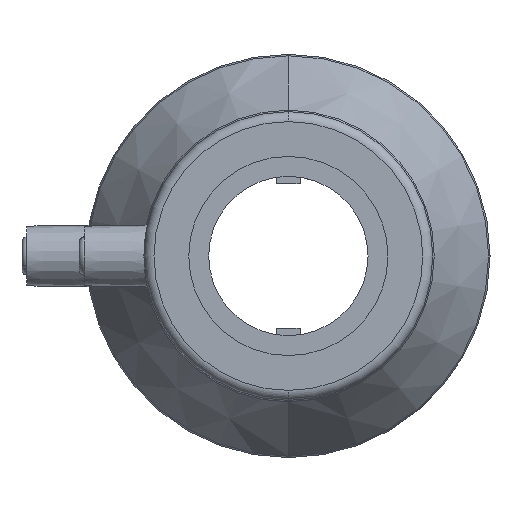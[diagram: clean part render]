
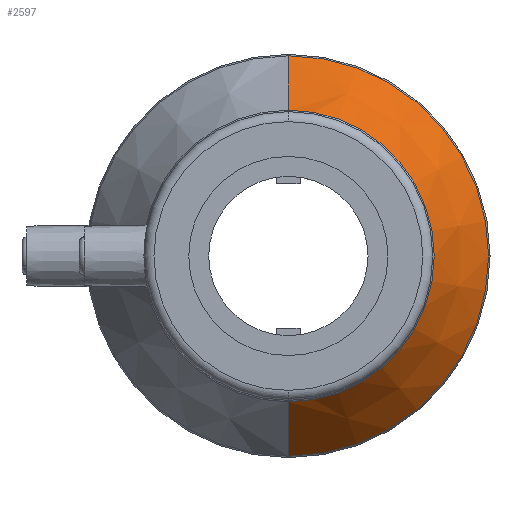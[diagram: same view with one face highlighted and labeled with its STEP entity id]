
A CAD part, left-side view. The second image highlights one B-rep face of the part: STEP entity #2597.
In plain terms, the highlighted conical face has half-angle 31.185 degrees and reference radius 40.211 mm.
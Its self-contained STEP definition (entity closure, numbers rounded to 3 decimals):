
#20 = CARTESIAN_POINT ( 'NONE',  ( -26.489, -16., 0. ) ) ;
#21 = DIRECTION ( 'NONE',  ( 1., 0., 0. ) ) ;
#22 = DIRECTION ( 'NONE',  ( 0., 0., -1. ) ) ;
#712 = VECTOR ( 'NONE', #4042, 1000. ) ;
#721 = VECTOR ( 'NONE', #4046, 1000. ) ;
#730 = CIRCLE ( 'NONE', #733, 29.289 ) ;
#733 = AXIS2_PLACEMENT_3D ( 'NONE', #4063, #4064, #4065 ) ;
#1080 = EDGE_CURVE ( 'NONE', #5578, #5579, #3905, .T. ) ;
#2597 = ADVANCED_FACE ( 'NONE', ( #6383 ), #8533, .T. ) ;
#3119 = ORIENTED_EDGE ( 'NONE', *, *, #3765, .F. ) ;
#3120 = ORIENTED_EDGE ( 'NONE', *, *, #3770, .T. ) ;
#3121 = ORIENTED_EDGE ( 'NONE', *, *, #3763, .T. ) ;
#3122 = ORIENTED_EDGE ( 'NONE', *, *, #1080, .F. ) ;
#3342 = EDGE_LOOP ( 'NONE', ( #3119, #3120, #3121, #3122 ) ) ;
#3763 = EDGE_CURVE ( 'NONE', #5581, #5579, #4037, .T. ) ;
#3765 = EDGE_CURVE ( 'NONE', #5587, #5578, #4041, .T. ) ;
#3770 = EDGE_CURVE ( 'NONE', #5587, #5581, #730, .T. ) ;
#3905 = CIRCLE ( 'NONE', #3907, 40.211 ) ;
#3907 = AXIS2_PLACEMENT_3D ( 'NONE', #20, #21, #22 ) ;
#4029 = CARTESIAN_POINT ( 'NONE',  ( -26.489, -16., 40.211 ) ) ;
#4033 = CARTESIAN_POINT ( 'NONE',  ( -26.489, -16., -40.211 ) ) ;
#4037 = LINE ( 'NONE', #4033, #712 ) ;
#4041 = LINE ( 'NONE', #4029, #721 ) ;
#4042 = DIRECTION ( 'NONE',  ( 0.856, 0., -0.518 ) ) ;
#4046 = DIRECTION ( 'NONE',  ( 0.856, 0., 0.518 ) ) ;
#4063 = CARTESIAN_POINT ( 'NONE',  ( -44.534, -16., 0. ) ) ;
#4064 = DIRECTION ( 'NONE',  ( 1., 0., 0. ) ) ;
#4065 = DIRECTION ( 'NONE',  ( 0., 0., -1. ) ) ;
#4666 = CARTESIAN_POINT ( 'NONE',  ( -26.489, -16., 40.211 ) ) ;
#4667 = CARTESIAN_POINT ( 'NONE',  ( -26.489, -16., -40.211 ) ) ;
#4669 = CARTESIAN_POINT ( 'NONE',  ( -44.534, -16., -29.289 ) ) ;
#4675 = CARTESIAN_POINT ( 'NONE',  ( -44.534, -16., 29.289 ) ) ;
#5578 = VERTEX_POINT ( 'NONE', #4666 ) ;
#5579 = VERTEX_POINT ( 'NONE', #4667 ) ;
#5581 = VERTEX_POINT ( 'NONE', #4669 ) ;
#5587 = VERTEX_POINT ( 'NONE', #4675 ) ;
#6382 = DIRECTION ( 'NONE',  ( 0., 0., -1. ) ) ;
#6383 = FACE_OUTER_BOUND ( 'NONE', #3342, .T. ) ;
#6385 = DIRECTION ( 'NONE',  ( 1., 0., 0. ) ) ;
#6387 = CARTESIAN_POINT ( 'NONE',  ( -26.489, -16., 0. ) ) ;
#8533 = CONICAL_SURFACE ( 'NONE', #8534, 40.211, 0.544 ) ;
#8534 = AXIS2_PLACEMENT_3D ( 'NONE', #6387, #6385, #6382 ) ;
